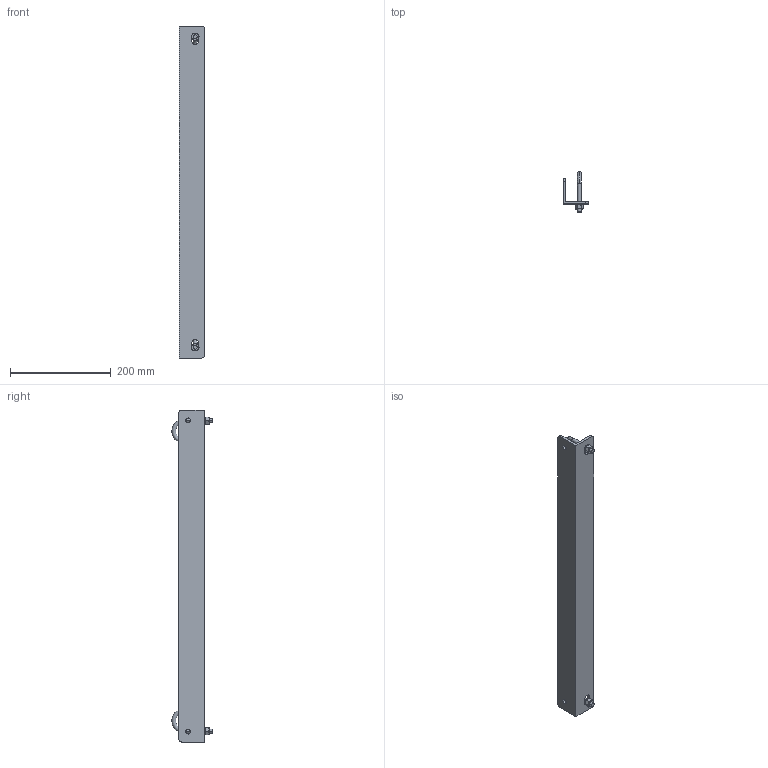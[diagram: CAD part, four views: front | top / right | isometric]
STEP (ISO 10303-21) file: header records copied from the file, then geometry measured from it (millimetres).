
FILE_DESCRIPTION (( 'STEP AP203' ), '1' );
FILE_NAME ('lwask24w.STEP', '2015-05-21T15:53:51', ( '' ), ( '' ), 'SwSTEP 2.0', 'SolidWorks 2010', '' );
FILE_SCHEMA (( 'CONFIG_CONTROL_DESIGN' ));
Length unit declared in the file: inch
Products named in the file (6): lwask24w; WallAngleSupport_24inWide; J-BoltSubassy; Hook; WasherLock.31; Nut.31
Assembly tree (6 placements, depth 3):
  lwask24w
    J-BoltSubassy  x2
      Hook
      WasherLock.31
      Nut.31
    WallAngleSupport_24inWide
Bounding box: 50.8 x 80.17 x 660.4 mm (x, y, z)
Volume: 335000.6 mm3; surface area: 143060.4 mm2
Topology: 7 solids, 7 shells, 109 faces, 249 edges, 154 vertices
Faces by surface type: plane 40, cylinder 33, cone 32, torus 4
Entity records: 2715 total; most frequent: CARTESIAN_POINT 464, DIRECTION 355, ORIENTED_EDGE 318, EDGE_CURVE 159, AXIS2_PLACEMENT_3D 143, VERTEX_POINT 100, EDGE_LOOP 77, VECTOR 69
